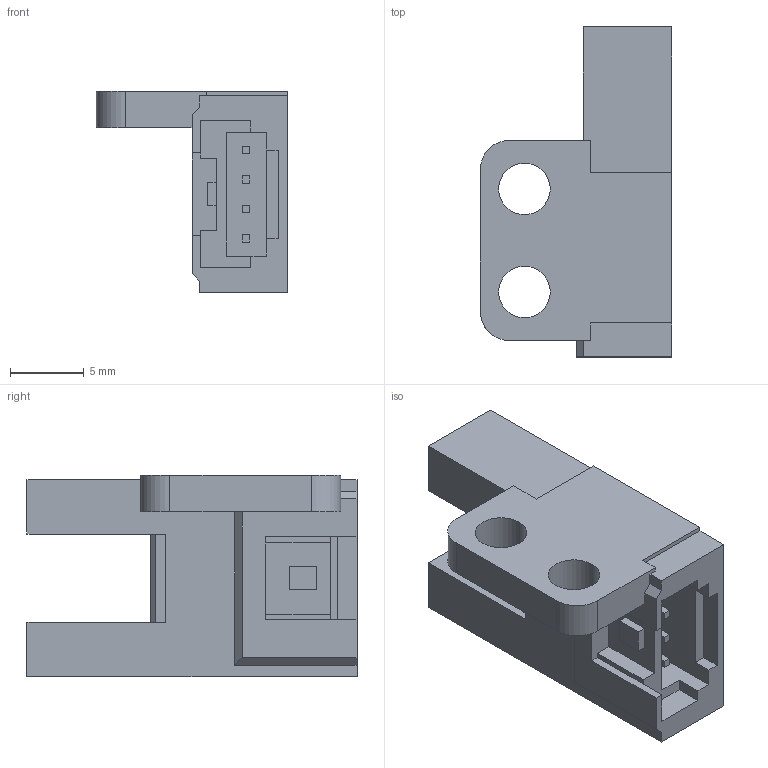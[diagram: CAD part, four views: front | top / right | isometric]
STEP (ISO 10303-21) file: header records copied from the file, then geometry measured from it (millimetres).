
FILE_DESCRIPTION (( 'STEP AP203' ), '1' );
FILE_NAME ('pm-r65w.STEP', '2015-08-07T08:29:05', ( '' ), ( '' ), 'SwSTEP 2.0', 'SolidWorks 2010', '' );
FILE_SCHEMA (( 'CONFIG_CONTROL_DESIGN' ));
Length unit declared in the file: millimetre
Products named in the file (1): pm-r65w
Bounding box: 13 x 22.4 x 13.7 mm (x, y, z)
Volume: 1524.9 mm3; surface area: 1451.9 mm2
Topology: 1 solids, 1 shells, 112 faces, 301 edges, 200 vertices
Faces by surface type: plane 106, cylinder 6
Entity records: 3526 total; most frequent: CARTESIAN_POINT 614, ORIENTED_EDGE 602, DIRECTION 539, EDGE_CURVE 301, LINE 289, VECTOR 289, VERTEX_POINT 200, EDGE_LOOP 125
